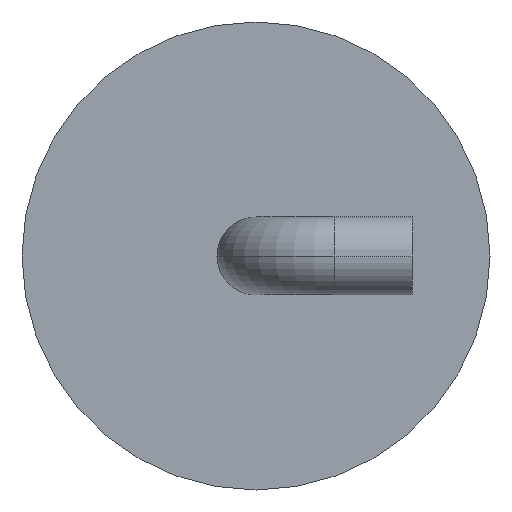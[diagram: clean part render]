
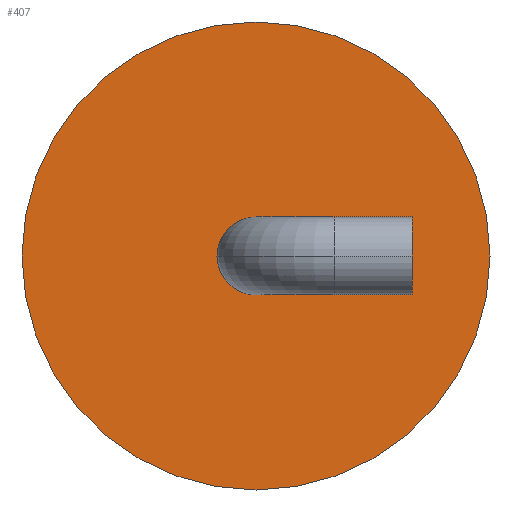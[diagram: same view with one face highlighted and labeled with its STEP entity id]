
A CAD part, front view. The second image highlights one B-rep face of the part: STEP entity #407.
In plain terms, the highlighted planar face has unit normal (0, -1, 0).
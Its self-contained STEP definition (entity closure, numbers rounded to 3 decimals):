
#19=CARTESIAN_POINT('',(0.,0.,0.));
#20=DIRECTION('',(0.,-1.,0.));
#21=DIRECTION('',(1.,0.,0.));
#22=AXIS2_PLACEMENT_3D('',#19,#20,#21);
#28=CARTESIAN_POINT('',(0.,0.,0.));
#29=DIRECTION('',(0.,-1.,0.));
#30=DIRECTION('',(-1.,0.,0.));
#31=AXIS2_PLACEMENT_3D('',#28,#29,#30);
#36=CARTESIAN_POINT('',(0.,0.,0.));
#37=DIRECTION('',(0.,-1.,0.));
#38=DIRECTION('',(1.,0.,0.));
#39=AXIS2_PLACEMENT_3D('',#36,#37,#38);
#58=CARTESIAN_POINT('',(0.,0.,0.));
#59=DIRECTION('',(0.,1.,0.));
#60=DIRECTION('',(1.,0.,0.));
#61=AXIS2_PLACEMENT_3D('',#58,#59,#60);
#352=CARTESIAN_POINT('',(3.,0.,0.));
#354=VERTEX_POINT('',#352);
#356=CARTESIAN_POINT('',(-3.,0.,0.));
#358=VERTEX_POINT('',#356);
#376=CARTESIAN_POINT('',(0.5,0.,0.));
#377=CARTESIAN_POINT('',(-0.5,0.,0.));
#378=VERTEX_POINT('',#376);
#379=VERTEX_POINT('',#377);
#390=CARTESIAN_POINT('',(0.,0.,0.));
#391=DIRECTION('',(0.,-1.,0.));
#392=DIRECTION('',(-1.,0.,0.));
#393=AXIS2_PLACEMENT_3D('',#390,#391,#392);
#394=PLANE('',#393);
#396=ORIENTED_EDGE('',*,*,#395,.F.);
#398=ORIENTED_EDGE('',*,*,#397,.T.);
#399=EDGE_LOOP('',(#396,#398));
#400=FACE_OUTER_BOUND('',#399,.F.);
#402=ORIENTED_EDGE('',*,*,#401,.T.);
#404=ORIENTED_EDGE('',*,*,#403,.T.);
#405=EDGE_LOOP('',(#402,#404));
#406=FACE_BOUND('',#405,.F.);
#23=CIRCLE('',#22,0.5);
#32=CIRCLE('',#31,0.5);
#40=CIRCLE('',#39,3.);
#62=CIRCLE('',#61,3.);
#395=EDGE_CURVE('',#354,#358,#40,.T.);
#397=EDGE_CURVE('',#354,#358,#62,.T.);
#401=EDGE_CURVE('',#378,#379,#23,.T.);
#403=EDGE_CURVE('',#379,#378,#32,.T.);
#407=ADVANCED_FACE('',(#400,#406),#394,.T.);
